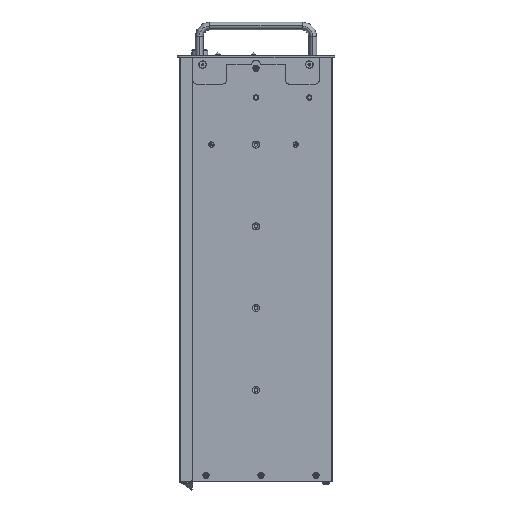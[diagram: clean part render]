
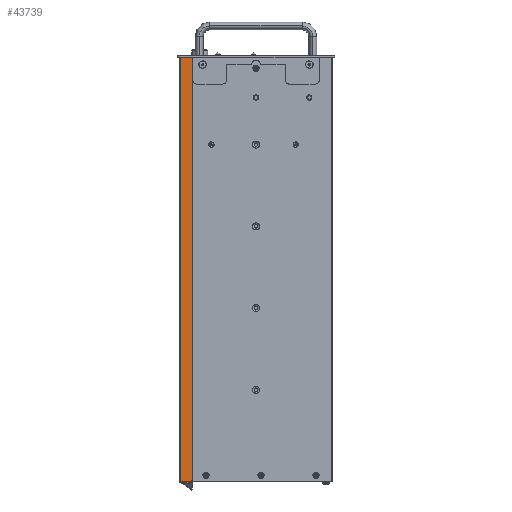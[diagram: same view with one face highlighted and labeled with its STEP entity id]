
A CAD part, left-side view. The second image highlights one B-rep face of the part: STEP entity #43739.
In plain terms, the highlighted planar face has unit normal (-1, 0, 0).
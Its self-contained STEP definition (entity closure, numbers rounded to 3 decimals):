
#1391 = ORIENTED_EDGE ( 'NONE', *, *, #7239, .F. ) ;
#3606 = VECTOR ( 'NONE', #40233, 1000. ) ;
#5877 = LINE ( 'NONE', #36680, #57616 ) ;
#6967 = CARTESIAN_POINT ( 'NONE',  ( -1.45, 171.5, -477.4 ) ) ;
#7239 = EDGE_CURVE ( 'NONE', #45673, #59711, #5877, .T. ) ;
#7942 = ORIENTED_EDGE ( 'NONE', *, *, #16582, .T. ) ;
#9026 = EDGE_CURVE ( 'NONE', #20010, #43970, #21574, .T. ) ;
#9104 = VERTEX_POINT ( 'NONE', #74746 ) ;
#9225 = CARTESIAN_POINT ( 'NONE',  ( -1.45, 158.3, -475.4 ) ) ;
#12260 = DIRECTION ( 'NONE',  ( 0., 0., 1. ) ) ;
#13436 = CARTESIAN_POINT ( 'NONE',  ( -1.45, 171.5, -477.4 ) ) ;
#16582 = EDGE_CURVE ( 'NONE', #9104, #43970, #37645, .T. ) ;
#19385 = DIRECTION ( 'NONE',  ( 0., -1., 0. ) ) ;
#20010 = VERTEX_POINT ( 'NONE', #74033 ) ;
#20587 = CARTESIAN_POINT ( 'NONE',  ( -1.45, 159.85, 0. ) ) ;
#21574 = LINE ( 'NONE', #53512, #3606 ) ;
#21649 = CARTESIAN_POINT ( 'NONE',  ( -1.45, 160.3, -475.4 ) ) ;
#24258 = EDGE_CURVE ( 'NONE', #24321, #9104, #38344, .T. ) ;
#24321 = VERTEX_POINT ( 'NONE', #68908 ) ;
#28409 = DIRECTION ( 'NONE',  ( 0., 0., -1. ) ) ;
#33120 = ORIENTED_EDGE ( 'NONE', *, *, #24258, .T. ) ;
#35619 = EDGE_LOOP ( 'NONE', ( #7942, #57363, #67274, #1391, #85024, #33120 ) ) ;
#36680 = CARTESIAN_POINT ( 'NONE',  ( -1.45, 171.5, 0. ) ) ;
#37645 = CIRCLE ( 'NONE', #62942, 2. ) ;
#38344 = LINE ( 'NONE', #6967, #72123 ) ;
#38825 = CARTESIAN_POINT ( 'NONE',  ( -1.45, 157.504, -486.948 ) ) ;
#40233 = DIRECTION ( 'NONE',  ( 0., 0., -1. ) ) ;
#43503 = DIRECTION ( 'NONE',  ( 0., -1., 0. ) ) ;
#43739 = ADVANCED_FACE ( 'NONE', ( #76688 ), #45918, .T. ) ;
#43970 = VERTEX_POINT ( 'NONE', #9225 ) ;
#45673 = VERTEX_POINT ( 'NONE', #68116 ) ;
#45918 = PLANE ( 'NONE',  #67186 ) ;
#48485 = EDGE_CURVE ( 'NONE', #24321, #45673, #76033, .T. ) ;
#52689 = DIRECTION ( 'NONE',  ( -1., 0., 0. ) ) ;
#53512 = CARTESIAN_POINT ( 'NONE',  ( -1.45, 158.3, 0. ) ) ;
#54245 = LINE ( 'NONE', #20587, #72199 ) ;
#56242 = CARTESIAN_POINT ( 'NONE',  ( -1.45, 159.85, 0. ) ) ;
#57363 = ORIENTED_EDGE ( 'NONE', *, *, #9026, .F. ) ;
#57616 = VECTOR ( 'NONE', #43503, 1000. ) ;
#58062 = VECTOR ( 'NONE', #67693, 1000. ) ;
#59711 = VERTEX_POINT ( 'NONE', #56242 ) ;
#62942 = AXIS2_PLACEMENT_3D ( 'NONE', #21649, #68854, #28409 ) ;
#67186 = AXIS2_PLACEMENT_3D ( 'NONE', #38825, #52689, #12260 ) ;
#67274 = ORIENTED_EDGE ( 'NONE', *, *, #76540, .F. ) ;
#67693 = DIRECTION ( 'NONE',  ( 0., 0., 1. ) ) ;
#67792 = DIRECTION ( 'NONE',  ( 0., -1., 0. ) ) ;
#68116 = CARTESIAN_POINT ( 'NONE',  ( -1.45, 171.5, 0. ) ) ;
#68854 = DIRECTION ( 'NONE',  ( -1., 0., 0. ) ) ;
#68908 = CARTESIAN_POINT ( 'NONE',  ( -1.45, 171.5, -477.4 ) ) ;
#72123 = VECTOR ( 'NONE', #19385, 1000. ) ;
#72199 = VECTOR ( 'NONE', #67792, 1000. ) ;
#74033 = CARTESIAN_POINT ( 'NONE',  ( -1.45, 158.3, 0. ) ) ;
#74746 = CARTESIAN_POINT ( 'NONE',  ( -1.45, 160.3, -477.4 ) ) ;
#76033 = LINE ( 'NONE', #13436, #58062 ) ;
#76540 = EDGE_CURVE ( 'NONE', #59711, #20010, #54245, .T. ) ;
#76688 = FACE_OUTER_BOUND ( 'NONE', #35619, .T. ) ;
#85024 = ORIENTED_EDGE ( 'NONE', *, *, #48485, .F. ) ;
